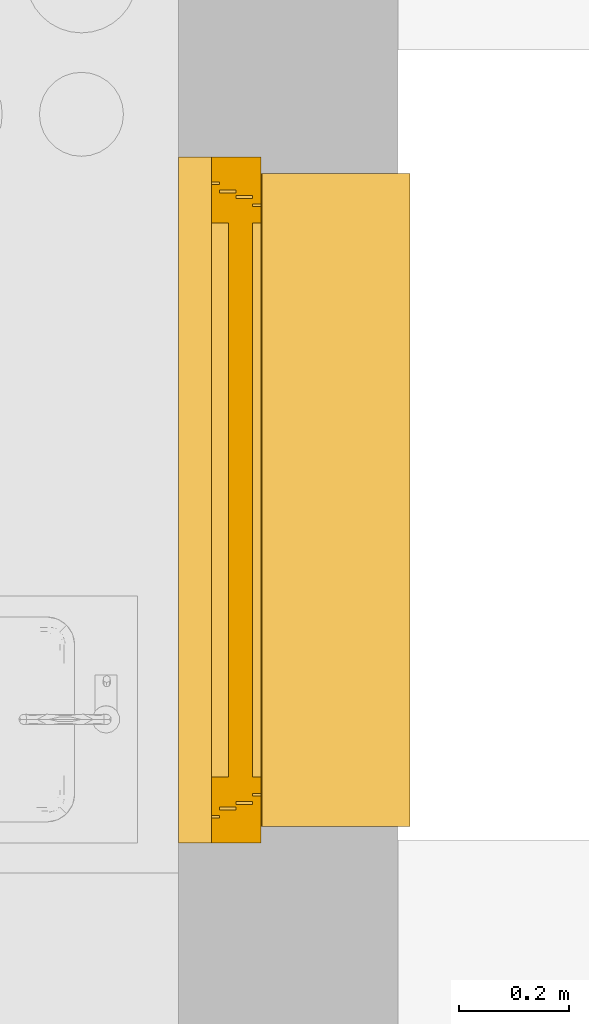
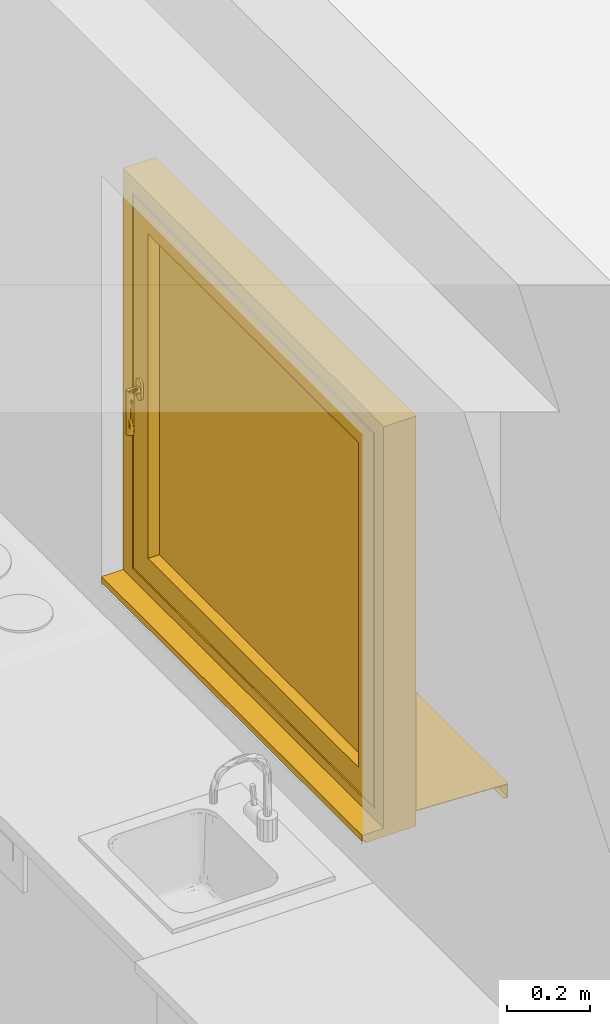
# One storey, part 14 of 18: 1 window.
"""IFC2X3 building model written with IfcOpenShell, lengths in metres."""

from ifc_helpers import new_model, entity, si_unit, converted_unit, derived_unit, direction, frame, frame_2d, origin, place, context, subcontext, project, spatial, polyline, rectangle, outline, extrude, faceted_brep, source, transform, mapped, material, material_list, type_object, type_shapes, element, save


model = new_model("IFC2X3")

# Units and contexts
model_context = context("Model", 3, precision=1e-05, world=origin(), true_north=direction((6.123233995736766e-17, 1.0)))
body_context = subcontext(model_context, "Body", "Model", "MODEL_VIEW")
ifc_project = project(units=[si_unit("LENGTHUNIT", "METRE"), si_unit("AREAUNIT", "SQUARE_METRE"), si_unit("VOLUMEUNIT", "CUBIC_METRE"), si_unit("POWERUNIT", "WATT"), derived_unit("USERDEFINED", [(si_unit("MASSUNIT", "GRAM", prefix="KILO"), 1), (si_unit("TIMEUNIT", "SECOND"), -3)]), derived_unit("THERMALRESISTANCEUNIT", [(si_unit("MASSUNIT", "GRAM", prefix="KILO"), -1), (si_unit("TIMEUNIT", "SECOND"), 3), (si_unit("THERMODYNAMICTEMPERATUREUNIT", "KELVIN"), 1)]), derived_unit("USERDEFINED", [(si_unit("MASSUNIT", "GRAM", prefix="KILO"), 1), (si_unit("TIMEUNIT", "SECOND"), -2), (si_unit("THERMODYNAMICTEMPERATUREUNIT", "KELVIN"), -1)]), derived_unit("THERMALTRANSMITTANCEUNIT", [(si_unit("MASSUNIT", "GRAM", prefix="KILO"), 1), (si_unit("TIMEUNIT", "SECOND"), -3), (si_unit("THERMODYNAMICTEMPERATUREUNIT", "KELVIN"), -1)]), converted_unit("PLANEANGLEUNIT", "DEGREE", entity("IfcPlaneAngleMeasure", 0.017453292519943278), si_unit("PLANEANGLEUNIT", "RADIAN"), dimensions=[0, 0, 0, 0, 0, 0, 0]), derived_unit("MOMENTOFINERTIAUNIT", [(si_unit("LENGTHUNIT", "METRE"), 4)])], contexts=[model_context])

# Site, building, storey
site_placement = place(None, origin())
site = spatial("IfcSite", under=ifc_project, at=site_placement, Name="Default", CompositionType="ELEMENT")
building_placement = place(site_placement, origin())
building = spatial("IfcBuilding", under=site, at=building_placement, CompositionType="ELEMENT")
storey_placement = place(building_placement, frame((0.0, 0.0, 2.6)))
storey = spatial("IfcBuildingStorey", under=building, at=storey_placement, Name="Erdgeschoss", CompositionType="ELEMENT", Elevation=2.6)

# Window
ifc_material_1 = material(Name="Glas - Isolierverglasung klar")
ifc_material_2 = material(Name="Holz - generisch 140-100-70")
ifc_material_3 = material(Name="Metall - Edelstahl gebürstet")
ifc_material_4 = material(Name="Kunststoff - grau 70-70-70")
ifc_material_list = material_list([ifc_material_1, ifc_material_2, ifc_material_3, ifc_material_4])
window_style = type_object("IfcWindowStyle", Name="FE 1 tlg - DrehKipp:1250 x 1200", ConstructionType="NOTDEFINED", OperationType="NOTDEFINED", ParameterTakesPrecedence=False, Sizeable=False, material=ifc_material_list)
shared_shape = source(origin(), body_context, "Body", "SolidModel", [
    extrude(rectangle(XDim=1.0100000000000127, YDim=0.043999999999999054, at=frame_2d((0.0, 8.673617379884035e-18), x_axis=(1.0, 0.0))), frame((0.6250000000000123, 0.5130000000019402, 0.13000000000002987), z_axis=(0.0, 0.0, 1.0), x_axis=(-1.0, 0.0, 0.0)), (0.0, 0.0, 1.0), 0.9499999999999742),
    extrude(outline(polyline([(-0.02333333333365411, -0.014333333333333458), (0.03666666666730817, -0.014333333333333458), (0.03666666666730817, 0.010666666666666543), (-0.013333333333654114, 0.010666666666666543), (-0.013333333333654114, 0.00366666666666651), (-0.02333333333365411, 0.00366666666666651), (-0.02333333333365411, -0.014333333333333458)])), frame((1.2500000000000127, 0.4233333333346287, 0.010666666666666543), z_axis=(-1.0, 0.0, 0.0), x_axis=(0.0, 1.0, 0.0)), (0.0, 0.0, 1.0), 1.249999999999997),
    faceted_brep([(0.07250000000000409, 0.4600000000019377, 0.5874999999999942), (0.07250000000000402, 0.4600000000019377, 0.6049999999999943), (0.07250000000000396, 0.4600000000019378, 0.6224999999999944), (0.07292592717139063, 0.4600000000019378, 0.6257352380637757), (0.07417468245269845, 0.46000000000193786, 0.6287499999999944), (0.07616116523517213, 0.46000000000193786, 0.6313388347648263), (0.07875000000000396, 0.46000000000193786, 0.6333253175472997), (0.08176476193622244, 0.46000000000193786, 0.6345740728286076), (0.08500000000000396, 0.46000000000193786, 0.6349999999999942), (0.08823523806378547, 0.46000000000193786, 0.6345740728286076), (0.09125000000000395, 0.46000000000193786, 0.6333253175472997), (0.09383883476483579, 0.46000000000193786, 0.6313388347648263), (0.09582531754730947, 0.46000000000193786, 0.6287499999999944), (0.0970740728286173, 0.4600000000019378, 0.6257352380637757), (0.09750000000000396, 0.4600000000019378, 0.6224999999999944), (0.09750000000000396, 0.4600000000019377, 0.6049999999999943), (0.0975000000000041, 0.4600000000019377, 0.5874999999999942), (0.09707407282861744, 0.46000000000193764, 0.5842647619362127), (0.09582531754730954, 0.46000000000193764, 0.5812499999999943), (0.09383883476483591, 0.46000000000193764, 0.5786611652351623), (0.09125000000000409, 0.46000000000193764, 0.5766746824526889), (0.08823523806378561, 0.46000000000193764, 0.575425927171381), (0.0850000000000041, 0.46000000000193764, 0.5749999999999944), (0.08176476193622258, 0.46000000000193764, 0.575425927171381), (0.0787500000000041, 0.46000000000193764, 0.5766746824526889), (0.07616116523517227, 0.46000000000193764, 0.5786611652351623), (0.07417468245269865, 0.46000000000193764, 0.5812499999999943), (0.07292592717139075, 0.46000000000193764, 0.5842647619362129), (0.07633974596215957, 0.4250000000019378, 0.6099999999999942), (0.08000000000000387, 0.45400000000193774, 0.6136602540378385), (0.07534074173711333, 0.4274118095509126, 0.6075881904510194), (0.07792893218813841, 0.4229289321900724, 0.6120710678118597), (0.08241180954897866, 0.45400000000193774, 0.6146592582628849), (0.08758819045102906, 0.42034074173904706, 0.6146592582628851), (0.09000000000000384, 0.42133974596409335, 0.6136602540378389), (0.08000000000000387, 0.4213397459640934, 0.6136602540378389), (0.0824118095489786, 0.42034074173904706, 0.6146592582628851), (0.08500000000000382, 0.42000000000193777, 0.6149999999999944), (0.08500000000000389, 0.45400000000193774, 0.6149999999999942), (0.07534074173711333, 0.45400000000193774, 0.6075881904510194), (0.075000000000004, 0.45400000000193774, 0.6049999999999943), (0.075000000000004, 0.44171565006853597, 0.6049999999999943), (0.075000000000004, 0.43585782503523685, 0.6049999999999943), (0.075000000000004, 0.4329289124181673, 0.6049999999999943), (0.075000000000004, 0.4300000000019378, 0.6049999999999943), (0.07633974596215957, 0.45400000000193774, 0.6099999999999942), (0.07792893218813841, 0.45400000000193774, 0.6120710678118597), (0.09207106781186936, 0.4229289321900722, 0.6120710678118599), (0.09000000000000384, 0.45400000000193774, 0.6136602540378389), (0.09366025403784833, 0.42500000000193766, 0.6099999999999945), (0.09465925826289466, 0.4274118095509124, 0.6075881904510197), (0.08758819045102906, 0.45400000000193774, 0.6146592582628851), (0.09207106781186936, 0.45400000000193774, 0.6120710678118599), (0.09500000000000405, 0.4300000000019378, 0.6049999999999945), (0.09366025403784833, 0.45400000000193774, 0.6099999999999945), (0.09465925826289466, 0.45400000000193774, 0.6075881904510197), (0.09500000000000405, 0.4329289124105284, 0.604999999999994), (0.09500000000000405, 0.43585782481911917, 0.6049999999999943), (0.09500000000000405, 0.4417156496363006, 0.6049999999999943), (0.09500000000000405, 0.45400000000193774, 0.6049999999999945), (0.0920710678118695, 0.43707106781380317, 0.5979289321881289), (0.0936602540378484, 0.4350000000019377, 0.5999999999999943), (0.09465925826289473, 0.43258819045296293, 0.6024118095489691), (0.09465925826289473, 0.45400000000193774, 0.6024118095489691), (0.09000000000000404, 0.4386602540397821, 0.5963397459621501), (0.08758819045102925, 0.4396592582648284, 0.5953407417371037), (0.0920710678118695, 0.45400000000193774, 0.5979289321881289), (0.0936602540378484, 0.45400000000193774, 0.5999999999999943), (0.09000000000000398, 0.45400000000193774, 0.5963397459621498), (0.08758819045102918, 0.45400000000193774, 0.5953407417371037), (0.0850000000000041, 0.4400000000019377, 0.5949999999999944), (0.08500000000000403, 0.45400000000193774, 0.5949999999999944), (0.07792893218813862, 0.43707106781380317, 0.5979289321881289), (0.08000000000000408, 0.43866025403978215, 0.5963397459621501), (0.08241180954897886, 0.4396592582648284, 0.5953407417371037), (0.07792893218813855, 0.45400000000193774, 0.5979289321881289), (0.07534074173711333, 0.45400000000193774, 0.6024118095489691), (0.0753407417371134, 0.43258819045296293, 0.6024118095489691), (0.07633974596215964, 0.4350000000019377, 0.5999999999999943), (0.0824118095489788, 0.45400000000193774, 0.5953407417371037), (0.08000000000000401, 0.45400000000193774, 0.5963397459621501), (0.07633974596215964, 0.45400000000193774, 0.5999999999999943), (0.07500000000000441, 0.4300000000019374, 0.4849999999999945), (0.07534074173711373, 0.4325881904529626, 0.4849999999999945), (0.07633974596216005, 0.4350000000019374, 0.4849999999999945), (0.07792893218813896, 0.4370710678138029, 0.4849999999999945), (0.08000000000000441, 0.43866025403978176, 0.4849999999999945), (0.08241180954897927, 0.43965925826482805, 0.4849999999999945), (0.08500000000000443, 0.4400000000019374, 0.4849999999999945), (0.08758819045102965, 0.43965925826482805, 0.4849999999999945), (0.09000000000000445, 0.43866025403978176, 0.4849999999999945), (0.0920710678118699, 0.43707106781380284, 0.4849999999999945), (0.09366025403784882, 0.4350000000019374, 0.4849999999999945), (0.09465925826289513, 0.43258819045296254, 0.4849999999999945), (0.09500000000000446, 0.4300000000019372, 0.4849999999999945), (0.09465925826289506, 0.42741180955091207, 0.4849999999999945), (0.09366025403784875, 0.4250000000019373, 0.4849999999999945), (0.09207106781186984, 0.4229289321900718, 0.4849999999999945), (0.09000000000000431, 0.4213397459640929, 0.4849999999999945), (0.08758819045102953, 0.4203407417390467, 0.4849999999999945), (0.0850000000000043, 0.4200000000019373, 0.4849999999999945), (0.08241180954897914, 0.4203407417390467, 0.4849999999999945), (0.08000000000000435, 0.42133974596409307, 0.4849999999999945), (0.0779289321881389, 0.42292893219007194, 0.4849999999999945), (0.07633974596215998, 0.42500000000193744, 0.4849999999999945), (0.07534074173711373, 0.4274118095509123, 0.4849999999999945), (0.07500000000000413, 0.4300000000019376, 0.5773956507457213), (0.0750000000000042, 0.43000000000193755, 0.5497913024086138), (0.09500000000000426, 0.43000000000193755, 0.5497913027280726), (0.09500000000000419, 0.4300000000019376, 0.5773956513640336), (0.09582531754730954, 0.4540000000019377, 0.5812499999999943), (0.09383883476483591, 0.4540000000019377, 0.5786611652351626), (0.09707407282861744, 0.4540000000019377, 0.5842647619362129), (0.0975000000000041, 0.4540000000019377, 0.5874999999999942), (0.09750000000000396, 0.45400000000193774, 0.6049999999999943), (0.09750000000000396, 0.4540000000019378, 0.6224999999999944), (0.0970740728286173, 0.4540000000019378, 0.625735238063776), (0.09582531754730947, 0.4540000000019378, 0.6287499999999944), (0.09383883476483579, 0.45400000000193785, 0.6313388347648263), (0.09125000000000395, 0.45400000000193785, 0.6333253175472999), (0.08823523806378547, 0.45400000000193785, 0.6345740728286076), (0.08500000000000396, 0.45400000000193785, 0.6349999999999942), (0.08176476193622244, 0.45400000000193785, 0.6345740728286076), (0.07875000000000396, 0.45400000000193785, 0.6333253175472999), (0.07616116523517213, 0.45400000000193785, 0.6313388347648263), (0.07417468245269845, 0.4540000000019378, 0.6287499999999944), (0.07292592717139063, 0.4540000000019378, 0.625735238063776), (0.07250000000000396, 0.4540000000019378, 0.6224999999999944), (0.07250000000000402, 0.45400000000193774, 0.6049999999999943), (0.07250000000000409, 0.4540000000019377, 0.5874999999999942), (0.07292592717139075, 0.4540000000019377, 0.5842647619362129), (0.07417468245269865, 0.4540000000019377, 0.5812499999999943), (0.07616116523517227, 0.4540000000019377, 0.5786611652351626), (0.0787500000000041, 0.4540000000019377, 0.5766746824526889), (0.08176476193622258, 0.4540000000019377, 0.575425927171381), (0.0850000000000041, 0.4540000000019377, 0.5749999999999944), (0.08823523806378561, 0.4540000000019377, 0.575425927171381), (0.09125000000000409, 0.4540000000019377, 0.5766746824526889)], [[[0, 1, 2, 3, 4, 5, 6, 7, 8, 9, 10, 11, 12, 13, 14, 15, 16, 17, 18, 19, 20, 21, 22, 23, 24, 25, 26, 27]], [[28, 29, 30]], [[31, 32, 28]], [[33, 34, 35, 36, 37]], [[32, 31, 38]], [[38, 31, 35]], [[39, 40, 41, 42, 43, 44]], [[39, 44, 45]], [[46, 45, 44]], [[46, 30, 29]], [[44, 30, 46]], [[28, 32, 29]], [[35, 34, 38]], [[47, 38, 34]], [[48, 49, 50]], [[47, 49, 51]], [[52, 50, 53]], [[51, 38, 47]], [[48, 51, 49]], [[54, 52, 53]], [[55, 53, 56, 57, 58, 59]], [[54, 53, 55]], [[48, 50, 52]], [[60, 58, 61]], [[53, 62, 57, 56]], [[58, 63, 59]], [[58, 57, 61]], [[64, 65, 66]], [[58, 64, 66]], [[58, 60, 64]], [[58, 67, 63]], [[65, 68, 66]], [[67, 58, 66]], [[68, 65, 69]], [[70, 71, 69, 65]], [[61, 57, 62]], [[72, 41, 73]], [[74, 73, 75]], [[76, 41, 40]], [[77, 44, 43, 42]], [[42, 78, 77]], [[78, 41, 72]], [[71, 70, 74, 79]], [[80, 79, 74]], [[75, 73, 41]], [[42, 41, 78]], [[41, 76, 81]], [[41, 81, 75]], [[80, 74, 75]], [[82, 83, 84, 85, 86, 87, 88, 89, 90, 91, 92, 93, 94, 95, 96, 97, 98, 99, 100, 101, 102, 103, 104, 105]], [[105, 44, 106, 107, 82]], [[104, 44, 105]], [[102, 101, 36, 35]], [[30, 104, 103]], [[31, 103, 102, 35]], [[103, 28, 30]], [[30, 44, 104]], [[31, 28, 103]], [[100, 37, 36, 101]], [[98, 97, 47, 34]], [[99, 98, 34, 33]], [[95, 94, 108, 109, 53]], [[96, 95, 53]], [[97, 96, 50]], [[33, 37, 100, 99]], [[97, 49, 47]], [[97, 50, 49]], [[96, 53, 50]], [[108, 92, 91]], [[92, 108, 93]], [[89, 65, 108]], [[108, 90, 89]], [[108, 91, 90]], [[93, 108, 94]], [[62, 53, 109]], [[61, 62, 109]], [[70, 65, 89, 88]], [[64, 108, 65]], [[108, 64, 60]], [[109, 60, 61]], [[106, 78, 72]], [[78, 106, 77]], [[85, 107, 86]], [[86, 107, 87]], [[82, 107, 83]], [[44, 77, 106]], [[83, 107, 84]], [[84, 107, 85]], [[74, 70, 88, 87]], [[87, 107, 74]], [[107, 72, 73]], [[107, 106, 72]], [[73, 74, 107]], [[108, 60, 109]], [[110, 71, 111]], [[69, 71, 110]], [[112, 69, 110]], [[112, 113, 69]], [[69, 113, 68]], [[66, 68, 113]], [[67, 66, 113]], [[114, 67, 113]], [[114, 63, 67]], [[114, 59, 63]], [[55, 59, 114]], [[114, 54, 55]], [[54, 114, 115]], [[52, 54, 115]], [[48, 52, 115]], [[51, 48, 115]], [[116, 51, 115]], [[116, 117, 51]], [[51, 117, 38]], [[118, 38, 117]], [[38, 118, 119]], [[119, 120, 38]], [[38, 120, 121]], [[38, 121, 122]], [[122, 123, 38]], [[123, 124, 38]], [[125, 38, 124]], [[32, 38, 125]], [[126, 32, 125]], [[32, 126, 127]], [[29, 32, 127]], [[46, 29, 127]], [[45, 46, 127]], [[127, 128, 45]], [[128, 39, 45]], [[128, 40, 39]], [[128, 76, 40]], [[128, 81, 76]], [[128, 129, 81]], [[81, 129, 75]], [[80, 75, 129]], [[79, 80, 129]], [[79, 129, 130]], [[130, 131, 79]], [[71, 131, 132]], [[71, 79, 131]], [[133, 71, 132]], [[71, 133, 134]], [[135, 71, 134]], [[136, 71, 135]], [[71, 136, 137]], [[111, 71, 137]], [[13, 116, 115, 14]], [[12, 117, 116, 13]], [[119, 118, 11, 10]], [[12, 11, 118, 117]], [[120, 119, 10, 9]], [[121, 120, 9, 8]], [[7, 122, 121, 8]], [[6, 123, 122, 7]], [[125, 124, 5, 4]], [[6, 5, 124, 123]], [[126, 125, 4, 3]], [[127, 126, 3, 2]], [[128, 127, 2, 1, 0, 129]], [[27, 130, 129, 0]], [[26, 131, 130, 27]], [[133, 132, 25, 24]], [[26, 25, 132, 131]], [[134, 133, 24, 23]], [[135, 134, 23, 22]], [[21, 136, 135, 22]], [[20, 137, 136, 21]], [[110, 111, 19, 18]], [[20, 19, 111, 137]], [[112, 110, 18, 17]], [[113, 112, 17, 16]], [[114, 113, 16, 15, 14, 115]]]),
    faceted_brep([(1.1300000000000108, 0.4600000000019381, 1.0799999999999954), (1.1300000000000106, 0.550000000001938, 1.0799999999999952), (1.1300000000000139, 0.550000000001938, 0.12999999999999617), (1.1300000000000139, 0.460000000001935, 0.12999999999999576), (1.1600000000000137, 0.5500000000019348, 0.09999999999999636), (0.09000000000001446, 0.5500000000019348, 0.09999999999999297), (0.09000000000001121, 0.5500000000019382, 1.1099999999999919), (1.1600000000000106, 0.5500000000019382, 1.1099999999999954), (0.12000000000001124, 0.550000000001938, 1.079999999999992), (0.12000000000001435, 0.550000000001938, 0.12999999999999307), (0.12000000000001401, 0.460000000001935, 0.12999999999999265), (0.12000000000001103, 0.4600000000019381, 1.079999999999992), (1.2000000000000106, 0.46000000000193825, 1.1499999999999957), (0.050000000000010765, 0.46000000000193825, 1.149999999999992), (0.05000000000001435, 0.46000000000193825, 0.059999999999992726), (1.2000000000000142, 0.46000000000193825, 0.059999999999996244), (1.2000000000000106, 0.475000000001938, 1.1499999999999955), (1.2000000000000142, 0.47500000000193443, 0.059999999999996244), (0.05000000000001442, 0.47500000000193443, 0.05999999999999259), (0.0500000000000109, 0.475000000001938, 1.149999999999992), (1.1850000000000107, 0.475000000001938, 1.1349999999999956), (0.06500000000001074, 0.475000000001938, 1.1349999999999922), (0.06500000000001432, 0.475000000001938, 0.07499999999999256), (1.1850000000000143, 0.475000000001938, 0.07499999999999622), (1.1850000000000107, 0.5050000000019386, 1.1349999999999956), (1.185000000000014, 0.5050000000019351, 0.07499999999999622), (0.06500000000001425, 0.5050000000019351, 0.0749999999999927), (0.06500000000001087, 0.5050000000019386, 1.1349999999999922), (1.1750000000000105, 0.5050000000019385, 1.1249999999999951), (0.0750000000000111, 0.5050000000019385, 1.1249999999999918), (0.07500000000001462, 0.5050000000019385, 0.084999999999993), (1.1750000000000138, 0.5050000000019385, 0.08499999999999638), (1.1750000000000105, 0.5350000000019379, 1.124999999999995), (1.1750000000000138, 0.5350000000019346, 0.08499999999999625), (0.07500000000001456, 0.5350000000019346, 0.08499999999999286), (0.07500000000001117, 0.5350000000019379, 1.1249999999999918), (1.1600000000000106, 0.5350000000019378, 1.1099999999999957), (0.09000000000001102, 0.5350000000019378, 1.109999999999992), (0.0900000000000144, 0.5350000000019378, 0.09999999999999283), (1.160000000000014, 0.5350000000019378, 0.09999999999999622)], [[[0, 1, 2, 3]], [[4, 5, 6, 7], [1, 8, 9, 2]], [[3, 2, 9, 10]], [[3, 10, 11, 0], [12, 13, 14, 15]], [[16, 12, 15, 17]], [[17, 15, 14, 18]], [[17, 18, 19, 16], [20, 21, 22, 23]], [[24, 20, 23, 25]], [[25, 23, 22, 26]], [[25, 26, 27, 24], [28, 29, 30, 31]], [[32, 28, 31, 33]], [[33, 31, 30, 34]], [[33, 34, 35, 32], [36, 37, 38, 39]], [[7, 36, 39, 4]], [[4, 39, 38, 5]], [[10, 9, 8, 11]], [[18, 14, 13, 19]], [[26, 22, 21, 27]], [[34, 30, 29, 35]], [[5, 38, 37, 6]], [[11, 8, 1, 0]], [[19, 13, 12, 16]], [[27, 21, 20, 24]], [[35, 29, 28, 32]], [[6, 37, 36, 7]]], outer=[[True], [True, False], [True], [False, True], [True], [True], [True, False], [True], [True], [True, False], [True], [True], [True, False], [True], [True], [True], [True], [True], [True], [True], [True], [True], [True], [True], [True]]),
    faceted_brep([(1.2200000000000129, 0.8220000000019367, 0.011120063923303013), (0.030000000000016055, 0.822000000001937, 0.011120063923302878), (0.030000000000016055, 0.8000000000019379, 0.012000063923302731), (0.030000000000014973, 0.552000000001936, 0.021920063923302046), (1.2200000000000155, 0.552000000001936, 0.021920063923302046), (1.2200000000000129, 0.8000000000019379, 0.012000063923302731), (1.2200000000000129, 0.8220000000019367, -0.02887993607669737), (0.030000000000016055, 0.8220000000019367, -0.028879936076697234), (1.2200000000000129, 0.8100000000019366, -0.02887993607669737), (0.030000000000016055, 0.8100000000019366, -0.02887993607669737), (1.2200000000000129, 0.8100000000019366, -0.02687993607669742), (0.030000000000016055, 0.8100000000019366, -0.026879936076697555), (1.2200000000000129, 0.8200000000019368, -0.02687993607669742), (0.030000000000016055, 0.8200000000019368, -0.02687993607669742), (1.2200000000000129, 0.8200000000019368, 0.00920000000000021), (0.030000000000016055, 0.8200000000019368, 0.00920000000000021), (1.2200000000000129, 0.8000000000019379, 0.010000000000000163), (1.220000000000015, 0.5500000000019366, 0.02000000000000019), (0.030000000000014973, 0.5500000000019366, 0.02000000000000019), (0.030000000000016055, 0.8000000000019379, 0.010000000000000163), (1.220000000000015, 0.5500000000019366, 0.040000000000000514), (0.030000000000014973, 0.5500000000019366, 0.040000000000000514), (1.220000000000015, 0.552000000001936, 0.040000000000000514), (0.030000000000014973, 0.552000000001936, 0.040000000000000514)], [[[0, 1, 2, 3, 4, 5]], [[6, 7, 1, 0]], [[8, 9, 7, 6]], [[10, 11, 9, 8]], [[12, 13, 11, 10]], [[14, 15, 13, 12]], [[16, 17, 18, 19, 15, 14]], [[20, 21, 18, 17]], [[22, 23, 21, 20]], [[4, 3, 23, 22]], [[16, 14, 12, 10, 8, 6, 0, 5]], [[19, 18, 21, 23, 3, 2]], [[5, 4, 22, 20, 17, 16]], [[2, 1, 7, 9, 11, 13, 15, 19]]]),
    faceted_brep([(0.0, 0.5500000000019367, 0.0), (1.2500000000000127, 0.5500000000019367, 0.0), (1.2500000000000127, 0.4600000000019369, 0.0), (0.0, 0.4600000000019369, 0.0), (0.0, 0.5500000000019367, 1.1999999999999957), (0.0, 0.4600000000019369, 1.1999999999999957), (1.2500000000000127, 0.4600000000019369, 1.1999999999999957), (0.04500000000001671, 0.4600000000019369, 1.1549999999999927), (1.2050000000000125, 0.4600000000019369, 1.1549999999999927), (1.2050000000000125, 0.4600000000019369, 0.0550000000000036), (0.04500000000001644, 0.4600000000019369, 0.0550000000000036), (1.2500000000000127, 0.5500000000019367, 1.1999999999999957), (0.08500000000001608, 0.5500000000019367, 0.09500000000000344), (1.1650000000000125, 0.5500000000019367, 0.0950000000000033), (1.1650000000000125, 0.5500000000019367, 1.1149999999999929), (0.08500000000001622, 0.5500000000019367, 1.1149999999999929), (0.08500000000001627, 0.5350000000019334, 1.1149999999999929), (0.08500000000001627, 0.5350000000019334, 0.09500000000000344), (1.1650000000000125, 0.535000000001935, 0.09500000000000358), (1.1650000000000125, 0.535000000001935, 1.1149999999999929), (0.04500000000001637, 0.4750000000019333, 1.1549999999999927), (0.04500000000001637, 0.4750000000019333, 0.0550000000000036), (1.2050000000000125, 0.4750000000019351, 0.0550000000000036), (1.2050000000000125, 0.4750000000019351, 1.154999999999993), (0.06000000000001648, 0.4750000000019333, 1.1399999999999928), (1.1900000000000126, 0.4750000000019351, 1.1399999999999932), (1.1900000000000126, 0.4750000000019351, 0.07000000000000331), (0.06000000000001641, 0.4750000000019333, 0.07000000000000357), (0.06000000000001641, 0.5050000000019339, 0.07000000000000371), (1.1900000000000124, 0.5050000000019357, 0.07000000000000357), (1.1900000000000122, 0.5050000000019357, 1.1399999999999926), (0.06000000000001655, 0.5050000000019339, 1.1399999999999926), (0.07000000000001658, 0.5050000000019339, 1.1299999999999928), (1.1800000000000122, 0.5050000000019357, 1.1299999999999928), (1.1800000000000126, 0.5050000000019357, 0.08000000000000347), (0.07000000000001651, 0.5050000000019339, 0.08000000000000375), (0.0700000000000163, 0.5350000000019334, 0.08000000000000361), (1.1800000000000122, 0.535000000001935, 0.08000000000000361), (1.1800000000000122, 0.535000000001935, 1.1299999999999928), (0.0700000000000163, 0.5350000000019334, 1.1299999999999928)], [[[0, 1, 2, 3]], [[4, 0, 3, 5]], [[5, 3, 2, 6], [7, 8, 9, 10]], [[6, 2, 1, 11]], [[11, 1, 0, 4], [12, 13, 14, 15]], [[12, 15, 16, 17]], [[18, 19, 14, 13]], [[17, 18, 13, 12]], [[20, 7, 10, 21]], [[10, 9, 22, 21]], [[9, 8, 23, 22]], [[21, 22, 23, 20], [24, 25, 26, 27]], [[28, 29, 30, 31], [32, 33, 34, 35]], [[31, 24, 27, 28]], [[27, 26, 29, 28]], [[36, 37, 38, 39], [16, 19, 18, 17]], [[39, 32, 35, 36]], [[35, 34, 37, 36]], [[26, 25, 30, 29]], [[34, 33, 38, 37]], [[4, 5, 6, 11]], [[20, 23, 8, 7]], [[31, 30, 25, 24]], [[39, 38, 33, 32]], [[15, 14, 19, 16]]]),
])
type_shapes(window_style, [shared_shape])
window_placement = place(storey_placement, frame((37.8267200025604, 18.527272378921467, 0.9899999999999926), z_axis=(0.0, 0.0, 1.0), x_axis=(0.0, -1.0, 0.0)))
element("IfcWindow", 1, at=window_placement, inside=storey, type_object=window_style, material=ifc_material_list, Name="FE 1 tlg - DrehKipp:1250 x 1200", ObjectType="FE 1 tlg - DrehKipp:1250 x 1200", OverallHeight=2.050000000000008, OverallWidth=1.2500000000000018, context=body_context, shape_type="MappedRepresentation", body=[
    mapped(shared_shape, transform((0.0, 0.0, 0.0), scale=1.0)),
])

save(model, "model.ifc")
